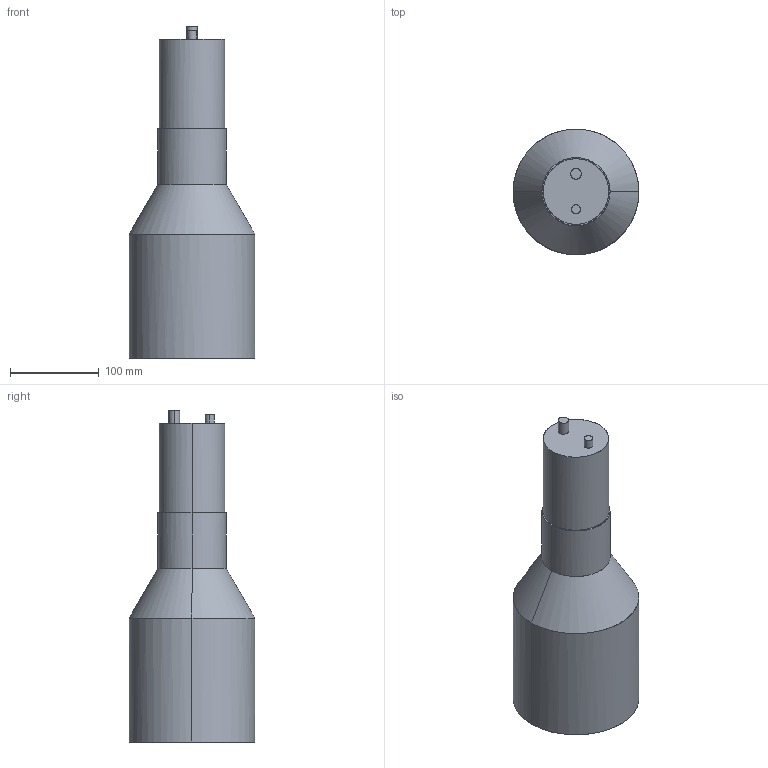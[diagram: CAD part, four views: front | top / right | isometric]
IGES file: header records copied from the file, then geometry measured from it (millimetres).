
Start section: C
Global section: file name: pmt.igs; native system:  By UGS Corp.; preprocessor: XPlus GENERIC/IGES 3.0; author: Author; organization: Title; date: 20110219.170608; units: millimetre
Bounding box: 142 x 141.88 x 375 mm (x, y, z)
Surface area: 153385.8 mm2 (no closed solid volume)
Topology: 0 solids, 0 shells, 22 faces, 86 edges, 84 vertices
Faces by surface type: bspline 22
